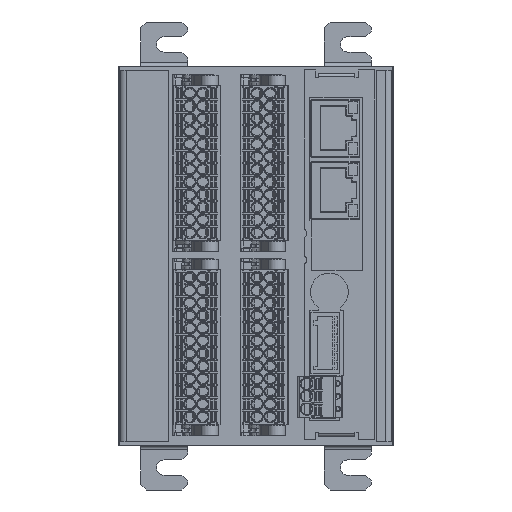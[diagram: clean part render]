
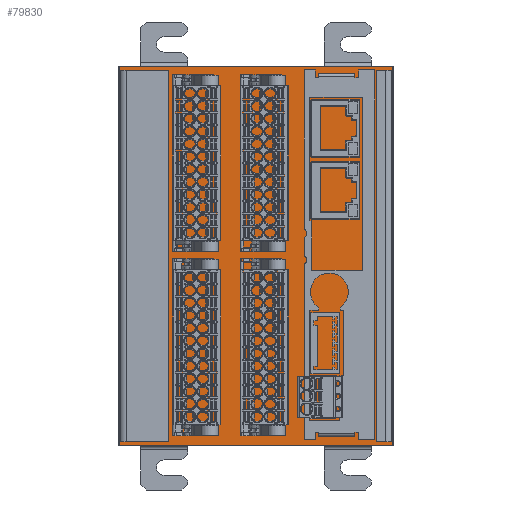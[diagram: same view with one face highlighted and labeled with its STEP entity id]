
A CAD part, front view. The second image highlights one B-rep face of the part: STEP entity #79830.
In plain terms, the highlighted planar face has unit normal (0, -1, 0).
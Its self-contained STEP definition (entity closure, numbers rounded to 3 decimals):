
#1420 = DIRECTION ( 'NONE',  ( 0., 1., 0. ) ) ;
#2032 = EDGE_CURVE ( 'NONE', #181040, #3087, #20254, .T. ) ;
#2061 = LINE ( 'NONE', #160237, #143351 ) ;
#3087 = VERTEX_POINT ( 'NONE', #85838 ) ;
#3761 = ORIENTED_EDGE ( 'NONE', *, *, #55754, .F. ) ;
#4454 = VERTEX_POINT ( 'NONE', #120791 ) ;
#6730 = VERTEX_POINT ( 'NONE', #103025 ) ;
#7493 = VECTOR ( 'NONE', #103747, 1000. ) ;
#9731 = CARTESIAN_POINT ( 'NONE',  ( 75.349, 16.4, -104.8 ) ) ;
#11632 = VECTOR ( 'NONE', #96125, 1000. ) ;
#16779 = PLANE ( 'NONE',  #198739 ) ;
#17555 = EDGE_CURVE ( 'NONE', #175089, #64917, #25438, .T. ) ;
#20135 = LINE ( 'NONE', #47977, #183686 ) ;
#20254 = LINE ( 'NONE', #84502, #131666 ) ;
#21773 = VERTEX_POINT ( 'NONE', #72078 ) ;
#23670 = ORIENTED_EDGE ( 'NONE', *, *, #154841, .F. ) ;
#25438 = LINE ( 'NONE', #159256, #169079 ) ;
#27121 = CARTESIAN_POINT ( 'NONE',  ( 0.149, 16.4, -103.9 ) ) ;
#32113 = DIRECTION ( 'NONE',  ( -1., 0., 0. ) ) ;
#32225 = VECTOR ( 'NONE', #105244, 1000. ) ;
#33192 = EDGE_CURVE ( 'NONE', #3087, #153189, #187803, .T. ) ;
#33341 = DIRECTION ( 'NONE',  ( 1., 0., 0. ) ) ;
#34687 = EDGE_CURVE ( 'NONE', #137832, #145546, #79738, .T. ) ;
#36411 = LINE ( 'NONE', #113395, #11632 ) ;
#36993 = CARTESIAN_POINT ( 'NONE',  ( 0.149, 16.4, -103.9 ) ) ;
#37352 = ORIENTED_EDGE ( 'NONE', *, *, #17555, .F. ) ;
#39539 = ORIENTED_EDGE ( 'NONE', *, *, #121774, .F. ) ;
#41225 = DIRECTION ( 'NONE',  ( 0., 0., -1. ) ) ;
#41466 = DIRECTION ( 'NONE',  ( 1., 0., 0. ) ) ;
#43085 = VERTEX_POINT ( 'NONE', #187424 ) ;
#47977 = CARTESIAN_POINT ( 'NONE',  ( 71.049, 16.4, -103.9 ) ) ;
#52063 = CARTESIAN_POINT ( 'NONE',  ( 0.749, 16.4, -1.1 ) ) ;
#53500 = ORIENTED_EDGE ( 'NONE', *, *, #57203, .T. ) ;
#55436 = ORIENTED_EDGE ( 'NONE', *, *, #166507, .F. ) ;
#55754 = EDGE_CURVE ( 'NONE', #21773, #43085, #60925, .T. ) ;
#57203 = EDGE_CURVE ( 'NONE', #6730, #66144, #104018, .T. ) ;
#59482 = VERTEX_POINT ( 'NONE', #181510 ) ;
#60925 = LINE ( 'NONE', #133126, #189857 ) ;
#62561 = CARTESIAN_POINT ( 'NONE',  ( 13.449, 16.4, -103.9 ) ) ;
#64917 = VERTEX_POINT ( 'NONE', #202671 ) ;
#66144 = VERTEX_POINT ( 'NONE', #71271 ) ;
#67193 = EDGE_CURVE ( 'NONE', #182748, #4454, #36411, .T. ) ;
#67917 = ORIENTED_EDGE ( 'NONE', *, *, #67193, .F. ) ;
#70805 = FACE_OUTER_BOUND ( 'NONE', #75548, .T. ) ;
#71271 = CARTESIAN_POINT ( 'NONE',  ( 13.449, 16.4, -103.9 ) ) ;
#71914 = CARTESIAN_POINT ( 'NONE',  ( 1.749, 16.4, -103.9 ) ) ;
#72078 = CARTESIAN_POINT ( 'NONE',  ( 71.049, 16.4, -1.1 ) ) ;
#72518 = ORIENTED_EDGE ( 'NONE', *, *, #190892, .T. ) ;
#73793 = CARTESIAN_POINT ( 'NONE',  ( -0.051, 16.4, -104.8 ) ) ;
#75057 = ORIENTED_EDGE ( 'NONE', *, *, #83459, .T. ) ;
#75548 = EDGE_LOOP ( 'NONE', ( #186315, #75057, #72518, #197352 ) ) ;
#76197 = VECTOR ( 'NONE', #131021, 1000. ) ;
#79738 = LINE ( 'NONE', #71914, #196341 ) ;
#79830 = ADVANCED_FACE ( 'NONE', ( #125280, #127884, #70805 ), #16779, .F. ) ;
#80949 = DIRECTION ( 'NONE',  ( -1., 0., 0. ) ) ;
#81947 = DIRECTION ( 'NONE',  ( -1., 0., 0. ) ) ;
#83046 = VECTOR ( 'NONE', #33341, 1000. ) ;
#83459 = EDGE_CURVE ( 'NONE', #153189, #132922, #117914, .T. ) ;
#84502 = CARTESIAN_POINT ( 'NONE',  ( -0.051, 16.4, -0.2 ) ) ;
#85838 = CARTESIAN_POINT ( 'NONE',  ( -0.051, 16.4, -0.2 ) ) ;
#87303 = VECTOR ( 'NONE', #101817, 1000. ) ;
#89934 = CARTESIAN_POINT ( 'NONE',  ( 73.549, 16.4, -1.1 ) ) ;
#90642 = DIRECTION ( 'NONE',  ( -1., 0., 0. ) ) ;
#92267 = CARTESIAN_POINT ( 'NONE',  ( 1.749, 16.4, -1.1 ) ) ;
#94968 = CARTESIAN_POINT ( 'NONE',  ( 73.549, 16.4, -103.9 ) ) ;
#96125 = DIRECTION ( 'NONE',  ( 0., 0., 1. ) ) ;
#98457 = VECTOR ( 'NONE', #41225, 1000. ) ;
#101817 = DIRECTION ( 'NONE',  ( 0., 0., 1. ) ) ;
#103025 = CARTESIAN_POINT ( 'NONE',  ( 13.449, 16.4, -1.1 ) ) ;
#103747 = DIRECTION ( 'NONE',  ( 0., 0., -1. ) ) ;
#104018 = LINE ( 'NONE', #198918, #7493 ) ;
#105244 = DIRECTION ( 'NONE',  ( 0., 0., -1. ) ) ;
#110182 = CARTESIAN_POINT ( 'NONE',  ( 75.349, 16.4, -104.8 ) ) ;
#113065 = CARTESIAN_POINT ( 'NONE',  ( 75.149, 16.4, -103.9 ) ) ;
#113395 = CARTESIAN_POINT ( 'NONE',  ( 75.149, 16.4, -1.1 ) ) ;
#114357 = EDGE_CURVE ( 'NONE', #59482, #182748, #142487, .T. ) ;
#117914 = LINE ( 'NONE', #118734, #132827 ) ;
#118734 = CARTESIAN_POINT ( 'NONE',  ( -0.051, 16.4, -104.8 ) ) ;
#120791 = CARTESIAN_POINT ( 'NONE',  ( 75.149, 16.4, -1.1 ) ) ;
#121774 = EDGE_CURVE ( 'NONE', #170458, #21773, #2061, .T. ) ;
#122202 = EDGE_LOOP ( 'NONE', ( #55436, #37352, #191973, #53500, #184357, #123181 ) ) ;
#123181 = ORIENTED_EDGE ( 'NONE', *, *, #34687, .F. ) ;
#125280 = FACE_BOUND ( 'NONE', #122202, .T. ) ;
#126569 = EDGE_CURVE ( 'NONE', #175089, #6730, #160467, .T. ) ;
#127884 = FACE_BOUND ( 'NONE', #195029, .T. ) ;
#128725 = ORIENTED_EDGE ( 'NONE', *, *, #114357, .F. ) ;
#129349 = LINE ( 'NONE', #89934, #201533 ) ;
#131021 = DIRECTION ( 'NONE',  ( 1., 0., 0. ) ) ;
#131666 = VECTOR ( 'NONE', #177389, 1000. ) ;
#132827 = VECTOR ( 'NONE', #180463, 1000. ) ;
#132922 = VERTEX_POINT ( 'NONE', #110182 ) ;
#133126 = CARTESIAN_POINT ( 'NONE',  ( 71.049, 16.4, -1.1 ) ) ;
#134931 = CARTESIAN_POINT ( 'NONE',  ( 73.549, 16.4, -1.1 ) ) ;
#137832 = VERTEX_POINT ( 'NONE', #36993 ) ;
#138768 = LINE ( 'NONE', #27121, #32225 ) ;
#142012 = CARTESIAN_POINT ( 'NONE',  ( 0., 16.4, 0. ) ) ;
#142487 = LINE ( 'NONE', #94968, #83046 ) ;
#142701 = DIRECTION ( 'NONE',  ( -1., 0., 0. ) ) ;
#143351 = VECTOR ( 'NONE', #81947, 1000. ) ;
#144805 = CARTESIAN_POINT ( 'NONE',  ( 1.749, 16.4, -103.9 ) ) ;
#145546 = VERTEX_POINT ( 'NONE', #144805 ) ;
#150998 = CARTESIAN_POINT ( 'NONE',  ( 75.349, 16.4, -0.2 ) ) ;
#153189 = VERTEX_POINT ( 'NONE', #156034 ) ;
#153539 = VECTOR ( 'NONE', #32113, 1000. ) ;
#154841 = EDGE_CURVE ( 'NONE', #43085, #59482, #20135, .T. ) ;
#156034 = CARTESIAN_POINT ( 'NONE',  ( -0.051, 16.4, -104.8 ) ) ;
#156717 = DIRECTION ( 'NONE',  ( 1., 0., 0. ) ) ;
#159256 = CARTESIAN_POINT ( 'NONE',  ( 1.749, 16.4, -1.1 ) ) ;
#160237 = CARTESIAN_POINT ( 'NONE',  ( 74.549, 16.4, -1.1 ) ) ;
#160467 = LINE ( 'NONE', #52063, #76197 ) ;
#166507 = EDGE_CURVE ( 'NONE', #64917, #137832, #138768, .T. ) ;
#168193 = ORIENTED_EDGE ( 'NONE', *, *, #174116, .F. ) ;
#169079 = VECTOR ( 'NONE', #80949, 1000. ) ;
#170458 = VERTEX_POINT ( 'NONE', #134931 ) ;
#170815 = LINE ( 'NONE', #62561, #153539 ) ;
#174006 = LINE ( 'NONE', #9731, #87303 ) ;
#174116 = EDGE_CURVE ( 'NONE', #4454, #170458, #129349, .T. ) ;
#175089 = VERTEX_POINT ( 'NONE', #92267 ) ;
#177389 = DIRECTION ( 'NONE',  ( -1., 0., 0. ) ) ;
#180277 = DIRECTION ( 'NONE',  ( 0., 0., -1. ) ) ;
#180463 = DIRECTION ( 'NONE',  ( 1., 0., 0. ) ) ;
#181040 = VERTEX_POINT ( 'NONE', #150998 ) ;
#181510 = CARTESIAN_POINT ( 'NONE',  ( 73.549, 16.4, -103.9 ) ) ;
#182748 = VERTEX_POINT ( 'NONE', #113065 ) ;
#183686 = VECTOR ( 'NONE', #156717, 1000. ) ;
#184357 = ORIENTED_EDGE ( 'NONE', *, *, #198451, .T. ) ;
#186315 = ORIENTED_EDGE ( 'NONE', *, *, #33192, .T. ) ;
#187424 = CARTESIAN_POINT ( 'NONE',  ( 71.049, 16.4, -103.9 ) ) ;
#187803 = LINE ( 'NONE', #73793, #98457 ) ;
#189857 = VECTOR ( 'NONE', #180277, 1000. ) ;
#190892 = EDGE_CURVE ( 'NONE', #132922, #181040, #174006, .T. ) ;
#191973 = ORIENTED_EDGE ( 'NONE', *, *, #126569, .T. ) ;
#195029 = EDGE_LOOP ( 'NONE', ( #67917, #128725, #23670, #3761, #39539, #168193 ) ) ;
#196341 = VECTOR ( 'NONE', #41466, 1000. ) ;
#197352 = ORIENTED_EDGE ( 'NONE', *, *, #2032, .T. ) ;
#198451 = EDGE_CURVE ( 'NONE', #66144, #145546, #170815, .T. ) ;
#198739 = AXIS2_PLACEMENT_3D ( 'NONE', #142012, #1420, #142701 ) ;
#198918 = CARTESIAN_POINT ( 'NONE',  ( 13.449, 16.4, -1.1 ) ) ;
#201533 = VECTOR ( 'NONE', #90642, 1000. ) ;
#202671 = CARTESIAN_POINT ( 'NONE',  ( 0.149, 16.4, -1.1 ) ) ;
